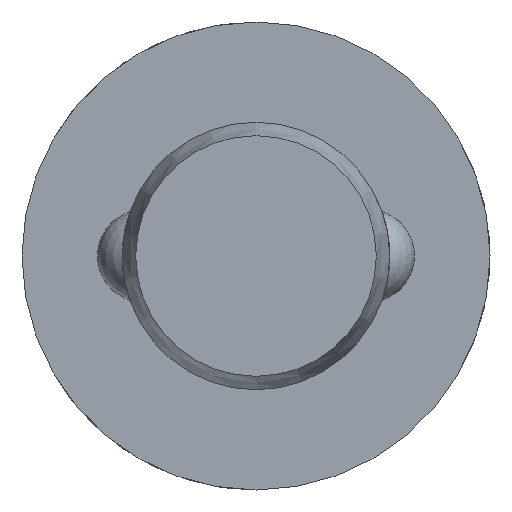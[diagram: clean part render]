
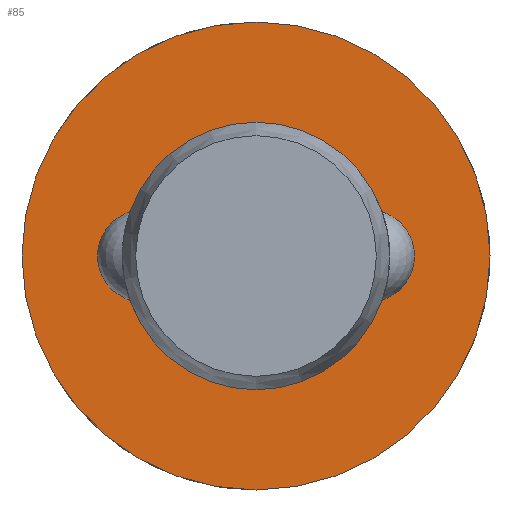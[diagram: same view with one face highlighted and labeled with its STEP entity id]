
A CAD part, left-side view. The second image highlights one B-rep face of the part: STEP entity #85.
In plain terms, the highlighted planar face has unit normal (-1, 0, 0).
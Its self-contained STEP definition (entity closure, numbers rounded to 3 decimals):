
#85 = ADVANCED_FACE( '', ( #130, #131 ), #132, .F. );
#130 = FACE_OUTER_BOUND( '', #200, .T. );
#131 = FACE_BOUND( '', #201, .T. );
#132 = PLANE( '', #202 );
#200 = EDGE_LOOP( '', ( #315 ) );
#201 = EDGE_LOOP( '', ( #316 ) );
#202 = AXIS2_PLACEMENT_3D( '', #317, #318, #319 );
#315 = ORIENTED_EDGE( '', *, *, #458, .F. );
#316 = ORIENTED_EDGE( '', *, *, #455, .T. );
#317 = CARTESIAN_POINT( '', ( 23.2, 4., 0. ) );
#318 = DIRECTION( '', ( 1., 0., 0. ) );
#319 = DIRECTION( '', ( 0., 0., -1. ) );
#455 = EDGE_CURVE( '', #528, #528, #529, .T. );
#458 = EDGE_CURVE( '', #534, #534, #535, .T. );
#528 = VERTEX_POINT( '', #732 );
#529 = CIRCLE( '', #733, 4. );
#534 = VERTEX_POINT( '', #820 );
#535 = CIRCLE( '', #821, 7. );
#732 = CARTESIAN_POINT( '', ( 23.2, 0., -4. ) );
#733 = AXIS2_PLACEMENT_3D( '', #898, #899, #900 );
#820 = CARTESIAN_POINT( '', ( 23.2, 0., -7. ) );
#821 = AXIS2_PLACEMENT_3D( '', #901, #902, #903 );
#898 = CARTESIAN_POINT( '', ( 23.2, 0., 0. ) );
#899 = DIRECTION( '', ( 1., 0., 0. ) );
#900 = DIRECTION( '', ( 0., 0., -1. ) );
#901 = CARTESIAN_POINT( '', ( 23.2, 0., 0. ) );
#902 = DIRECTION( '', ( 1., 0., 0. ) );
#903 = DIRECTION( '', ( 0., 0., -1. ) );
